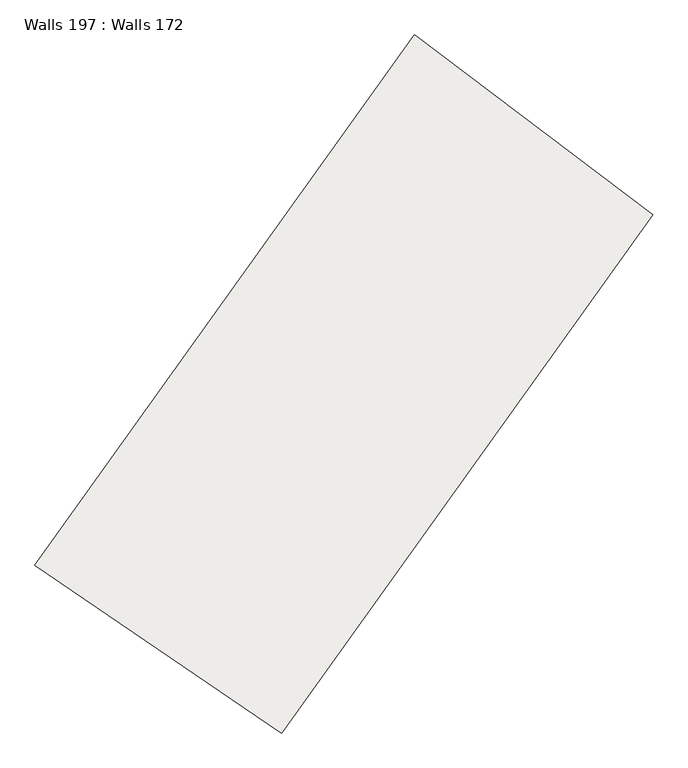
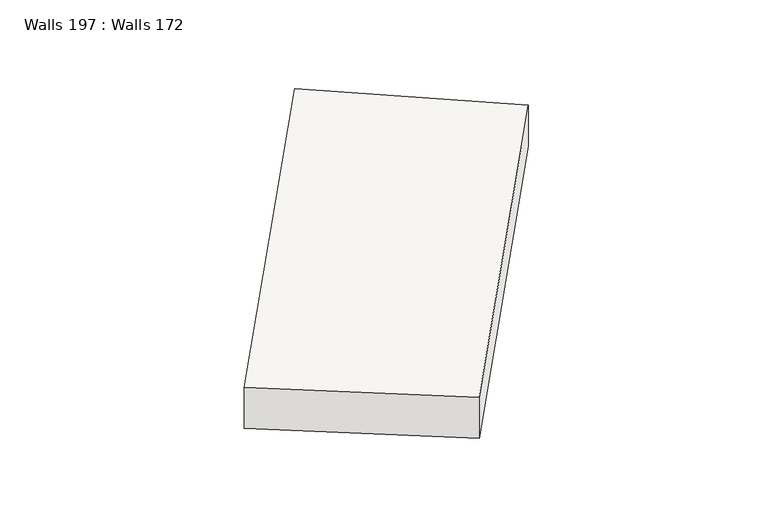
"""IFC4 building model written with IfcOpenShell, lengths in millimetres: slab geometry, Walls 197 : Walls 172."""

from ifc_helpers import new_model, si_unit, frame, origin, place, context, project, spatial, source, transform, mapped, element, save
from ifc_brep_helpers import plane_surface, spline_curve, spline_surface, advanced_brep


def walls_197_walls_172_5ef485f0(model_context):
    return source(origin(), model_context, "Body", "AdvancedBrep", [
        advanced_brep(
        [(215845.0322066, 118866.6132507, 641960.0), (219151.8850913, 116616.1190829, 641960.0), (219151.8850913, 116616.1190829, 642810.0), (215845.0322066, 118866.6132507, 642810.0), (220934.2527295, 125969.3778144, 642060.0), (220934.2527295, 125969.3778144, 642910.0), (224128.5122397, 123561.7428376, 642910.0), (224128.5122397, 123561.7428376, 642060.0)],
        [
            (0, 1),
            (1, 2),
            (2, 3),
            (3, 0),
            (4, 5),
            (5, 6),
            (6, 7),
            (7, 4),
            (5, 3, spline_curve(3, [(220934.2527295, 125969.3778144, 642910.0), (219180.959436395, 123643.24705564, 642876.666666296), (217483.89207059, 121274.737006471, 642843.333333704), (215845.0322066, 118866.6132507, 642810.0)], [4, 4], [0.0, 28.354573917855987])),
            (2, 6, spline_curve(3, [(219151.8850913, 116616.1190829, 642810.0), (220754.486993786, 118970.965764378, 642843.333333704), (222414.0086209, 121287.075148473, 642876.666666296), (224128.5122397, 123561.7428376, 642910.0)], [4, 4], [0.0, 28.354573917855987])),
            (7, 1, spline_curve(3, [(224128.5122397, 123561.7428376, 642060.0), (222414.0086209, 121287.075148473, 642026.666666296), (220754.486993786, 118970.965764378, 641993.333333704), (219151.8850913, 116616.1190829, 641960.0)], [4, 4], [0.0, 28.354573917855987])),
            (0, 4, spline_curve(3, [(215845.0322066, 118866.6132507, 641960.0), (217483.89207059, 121274.737006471, 641993.333333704), (219180.959436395, 123643.24705564, 642026.666666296), (220934.2527295, 125969.3778144, 642060.0)], [4, 4], [0.0, 28.354573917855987])),
        ],
        [
            plane_surface(frame((217498.458649, 117741.3661668, 642385.0), z_axis=(-0.5626235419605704, -0.8267132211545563, 0.0), x_axis=(0.0, 0.0, 1.0))),
            plane_surface(frame((222531.3824846, 124765.560326, 642485.0), z_axis=(0.6019087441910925, 0.7985648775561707, 0.0), x_axis=(0.7985648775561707, -0.6019087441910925, 0.0))),
            spline_surface(3, 3, [[(224128.5122397, 123561.7428376, 642910.0), (222414.008621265, 121287.075148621, 642876.666666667), (220754.486993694, 118970.965764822, 642843.333333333), (219151.8850913, 116616.1190829, 642810.0)], [(223063.759069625, 124364.287829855, 642910.0), (221336.325559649, 122072.465784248, 642876.666666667), (219664.288686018, 119738.889512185, 642843.333333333), (218049.600796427, 117366.283805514, 642810.0)], [(221999.005899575, 125166.832822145, 642910.0), (220258.642498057, 122857.85641991, 642876.666666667), (218574.090378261, 120506.813259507, 642843.333333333), (216947.316501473, 118116.448528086, 642810.0)], [(220934.2527295, 125969.3778144, 642910.0), (219180.959436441, 123643.247055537, 642876.666666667), (217483.892070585, 121274.73700687, 642843.333333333), (215845.0322066, 118866.6132507, 642810.0)]], [4, 4], [4, 4], [0.0, 13.123359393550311], [0.0, 28.354573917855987]),
            spline_surface(3, 3, [[(220934.2527295, 125969.3778144, 642060.0), (219180.959436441, 123643.247055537, 642026.666666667), (217483.892070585, 121274.73700687, 641993.333333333), (215845.0322066, 118866.6132507, 641960.0)], [(221999.005899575, 125166.832822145, 642060.0), (220258.642498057, 122857.85641991, 642026.666666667), (218574.090378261, 120506.813259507, 641993.333333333), (216947.316501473, 118116.448528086, 641960.0)], [(223063.759069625, 124364.287829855, 642060.0), (221336.325559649, 122072.465784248, 642026.666666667), (219664.288686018, 119738.889512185, 641993.333333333), (218049.600796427, 117366.283805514, 641960.0)], [(224128.5122397, 123561.7428376, 642060.0), (222414.008621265, 121287.075148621, 642026.666666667), (220754.486993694, 118970.965764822, 641993.333333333), (219151.8850913, 116616.1190829, 641960.0)]], [4, 4], [4, 4], [0.0, 13.123359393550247], [0.0, 28.354573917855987]),
            spline_surface(3, 3, [[(220934.2527295, 125969.3778144, 642910.0), (219180.959436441, 123643.247055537, 642876.666666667), (217483.892070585, 121274.73700687, 642843.333333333), (215845.0322066, 118866.6132507, 642810.0)], [(220934.2527295, 125969.3778144, 642626.666666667), (219180.959436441, 123643.247055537, 642593.333333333), (217483.892070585, 121274.73700687, 642560.0), (215845.0322066, 118866.6132507, 642526.666666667)], [(220934.2527295, 125969.3778144, 642343.333333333), (219180.959436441, 123643.247055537, 642310.0), (217483.892070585, 121274.73700687, 642276.666666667), (215845.0322066, 118866.6132507, 642243.333333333)], [(220934.2527295, 125969.3778144, 642060.0), (219180.959436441, 123643.247055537, 642026.666666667), (217483.892070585, 121274.73700687, 641993.333333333), (215845.0322066, 118866.6132507, 641960.0)]], [4, 4], [4, 4], [0.0, 2.7887139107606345], [0.0, 28.671696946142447]),
            spline_surface(3, 3, [[(224128.5122397, 123561.7428376, 642060.0), (222414.008621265, 121287.075148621, 642026.666666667), (220754.486993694, 118970.965764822, 641993.333333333), (219151.8850913, 116616.1190829, 641960.0)], [(224128.5122397, 123561.7428376, 642343.333333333), (222414.008621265, 121287.075148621, 642310.0), (220754.486993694, 118970.965764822, 642276.666666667), (219151.8850913, 116616.1190829, 642243.333333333)], [(224128.5122397, 123561.7428376, 642626.666666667), (222414.008621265, 121287.075148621, 642593.333333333), (220754.486993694, 118970.965764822, 642560.0), (219151.8850913, 116616.1190829, 642526.666666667)], [(224128.5122397, 123561.7428376, 642910.0), (222414.008621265, 121287.075148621, 642876.666666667), (220754.486993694, 118970.965764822, 642843.333333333), (219151.8850913, 116616.1190829, 642810.0)]], [4, 4], [4, 4], [0.0, 2.7887139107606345], [0.0, 28.037451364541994]),
        ],
        [
            (0, [[1, 2, 3, 4]]),
            (1, [[5, 6, 7, 8]]),
            (2, [[-6, 9, -3, 10]]),
            (3, [[-8, 11, -1, 12]]),
            (4, [[-5, -12, -4, -9]]),
            (5, [[-7, -10, -2, -11]]),
        ],
    ),
    ])


if __name__ == "__main__":
    model = new_model("IFC4")
    model_context = context("Model", 3, world=origin())
    ifc_project = project(units=[si_unit("LENGTHUNIT", "METRE", prefix="MILLI")], contexts=[model_context])
    site = spatial("IfcSite", under=ifc_project)
    building = spatial("IfcBuilding", under=site)
    placement = place(None, origin())
    walls_197_walls_172_shape = walls_197_walls_172_5ef485f0(model_context)
    element("IfcSlab", 1, ObjectType="Walls 197 : Walls 172", at=placement, inside=building, context=model_context, shape_type="MappedRepresentation", body=[
        mapped(walls_197_walls_172_shape, transform((0.0, 0.0, 0.0), x_axis=(1.0, 0.0, 0.0), y_axis=(0.0, 1.0, 0.0), z_axis=(0.0, 0.0, 1.0))),
    ])
    save(model, "model.ifc")
